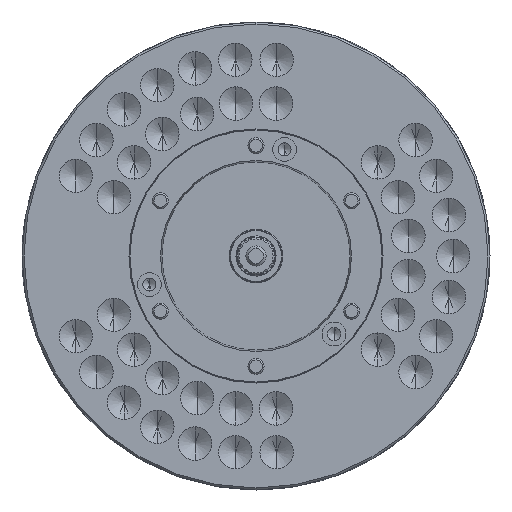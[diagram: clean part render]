
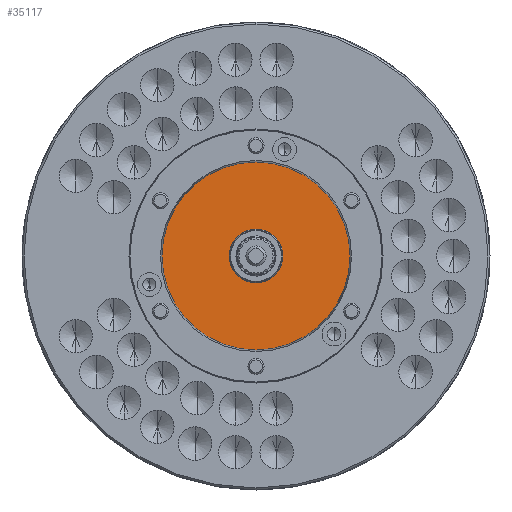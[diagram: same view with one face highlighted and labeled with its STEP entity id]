
A CAD part, left-side view. The second image highlights one B-rep face of the part: STEP entity #35117.
In plain terms, the highlighted planar face has unit normal (-1, 0, 0) as drawn and (0, 0, -1) by its records, which use the part's own axes.
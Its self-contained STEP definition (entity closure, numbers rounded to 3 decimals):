
#255 = DIRECTION ( 'NONE',  ( 0., 0., 1. ) ) ;
#577 = DIRECTION ( 'NONE',  ( 1., 0., 0. ) ) ;
#1055 = ORIENTED_EDGE ( 'NONE', *, *, #4294, .F. ) ;
#2756 = EDGE_LOOP ( 'NONE', ( #43584, #9670 ) ) ;
#4294 = EDGE_CURVE ( 'NONE', #54886, #47545, #102414, .T. ) ;
#6862 = CARTESIAN_POINT ( 'NONE',  ( 40., 0., -145. ) ) ;
#9670 = ORIENTED_EDGE ( 'NONE', *, *, #81134, .T. ) ;
#19315 = FACE_BOUND ( 'NONE', #2756, .T. ) ;
#21136 = DIRECTION ( 'NONE',  ( 0., 0., 1. ) ) ;
#27248 = CARTESIAN_POINT ( 'NONE',  ( -40., 0., -145. ) ) ;
#32569 = ORIENTED_EDGE ( 'NONE', *, *, #130586, .F. ) ;
#35117 = ADVANCED_FACE ( 'NONE', ( #19315, #130852 ), #117080, .F. ) ;
#43584 = ORIENTED_EDGE ( 'NONE', *, *, #102381, .T. ) ;
#46282 = DIRECTION ( 'NONE',  ( 0., 0., 1. ) ) ;
#47545 = VERTEX_POINT ( 'NONE', #47622 ) ;
#47622 = CARTESIAN_POINT ( 'NONE',  ( 140.7, 0., -145. ) ) ;
#48567 = AXIS2_PLACEMENT_3D ( 'NONE', #63166, #255, #73686 ) ;
#54033 = CIRCLE ( 'NONE', #94576, 40. ) ;
#54374 = DIRECTION ( 'NONE',  ( 0., 0., 1. ) ) ;
#54758 = VERTEX_POINT ( 'NONE', #6862 ) ;
#54886 = VERTEX_POINT ( 'NONE', #72452 ) ;
#63166 = CARTESIAN_POINT ( 'NONE',  ( 0., 0., -145. ) ) ;
#63489 = DIRECTION ( 'NONE',  ( 0., 0., 1. ) ) ;
#70599 = AXIS2_PLACEMENT_3D ( 'NONE', #126182, #63489, #577 ) ;
#72452 = CARTESIAN_POINT ( 'NONE',  ( -140.7, 0., -145. ) ) ;
#73686 = DIRECTION ( 'NONE',  ( 1., 0., 0. ) ) ;
#74964 = CARTESIAN_POINT ( 'NONE',  ( 0., -140.7, -145. ) ) ;
#81086 = AXIS2_PLACEMENT_3D ( 'NONE', #74964, #54374, #127591 ) ;
#81134 = EDGE_CURVE ( 'NONE', #81829, #54758, #54033, .T. ) ;
#81829 = VERTEX_POINT ( 'NONE', #27248 ) ;
#84032 = CARTESIAN_POINT ( 'NONE',  ( 0., 0., -145. ) ) ;
#94538 = DIRECTION ( 'NONE',  ( 1., 0., 0. ) ) ;
#94576 = AXIS2_PLACEMENT_3D ( 'NONE', #109027, #46282, #119506 ) ;
#94941 = EDGE_LOOP ( 'NONE', ( #32569, #1055 ) ) ;
#102381 = EDGE_CURVE ( 'NONE', #54758, #81829, #112947, .T. ) ;
#102414 = CIRCLE ( 'NONE', #48567, 140.7 ) ;
#109027 = CARTESIAN_POINT ( 'NONE',  ( 0., 0., -145. ) ) ;
#112660 = AXIS2_PLACEMENT_3D ( 'NONE', #84032, #21136, #94538 ) ;
#112947 = CIRCLE ( 'NONE', #70599, 40. ) ;
#117080 = PLANE ( 'NONE',  #81086 ) ;
#119354 = CIRCLE ( 'NONE', #112660, 140.7 ) ;
#119506 = DIRECTION ( 'NONE',  ( 1., 0., 0. ) ) ;
#126182 = CARTESIAN_POINT ( 'NONE',  ( 0., 0., -145. ) ) ;
#127591 = DIRECTION ( 'NONE',  ( 1., 0., 0. ) ) ;
#130586 = EDGE_CURVE ( 'NONE', #47545, #54886, #119354, .T. ) ;
#130852 = FACE_OUTER_BOUND ( 'NONE', #94941, .T. ) ;
